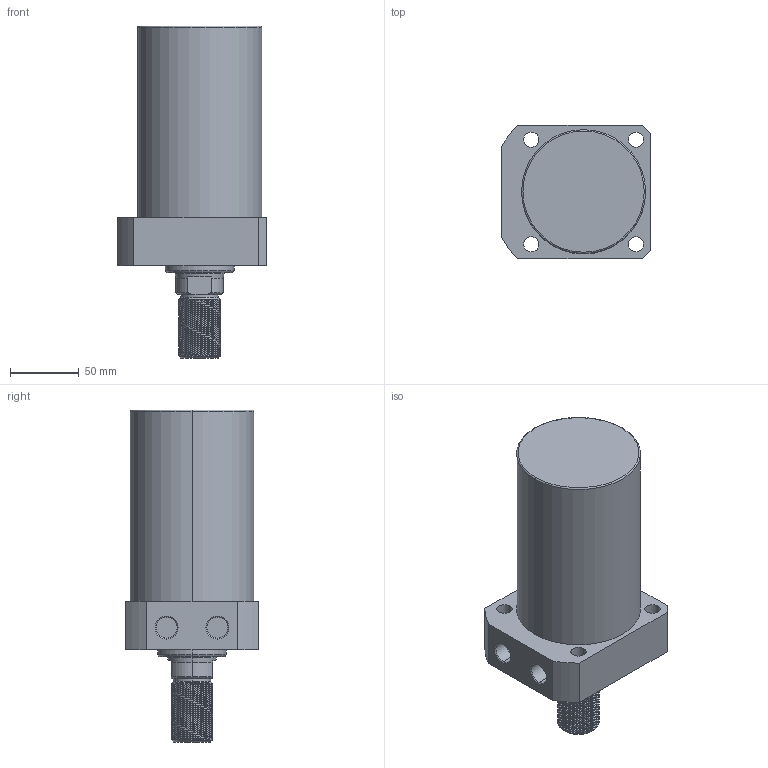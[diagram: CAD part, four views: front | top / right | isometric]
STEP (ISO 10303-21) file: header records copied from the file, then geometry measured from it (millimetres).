
FILE_DESCRIPTION (( 'STEP AP214' ), '1' );
FILE_NAME ('CLLR-090CT-095.STEP', '2020-01-10T02:00:40', ( 'Windows' ), ( 'Microsoft' ), 'SwSTEP 2.0', 'SolidWorks 2015', '' );
FILE_SCHEMA (( 'AUTOMOTIVE_DESIGN' ));
Length unit declared in the file: millimetre
Products named in the file (1): CLLR-090CT-095
Bounding box: 108 x 97 x 241 mm (x, y, z)
Volume: 1278463.1 mm3; surface area: 87841.6 mm2
Topology: 1 solids, 1 shells, 126 faces, 333 edges, 217 vertices
Faces by surface type: cylinder 85, plane 20, cone 17, torus 2, bspline 2
Entity records: 7012 total; most frequent: CARTESIAN_POINT 4094, ORIENTED_EDGE 666, DIRECTION 535, EDGE_CURVE 333, VERTEX_POINT 217, AXIS2_PLACEMENT_3D 206, EDGE_LOOP 142, FACE_OUTER_BOUND 126
